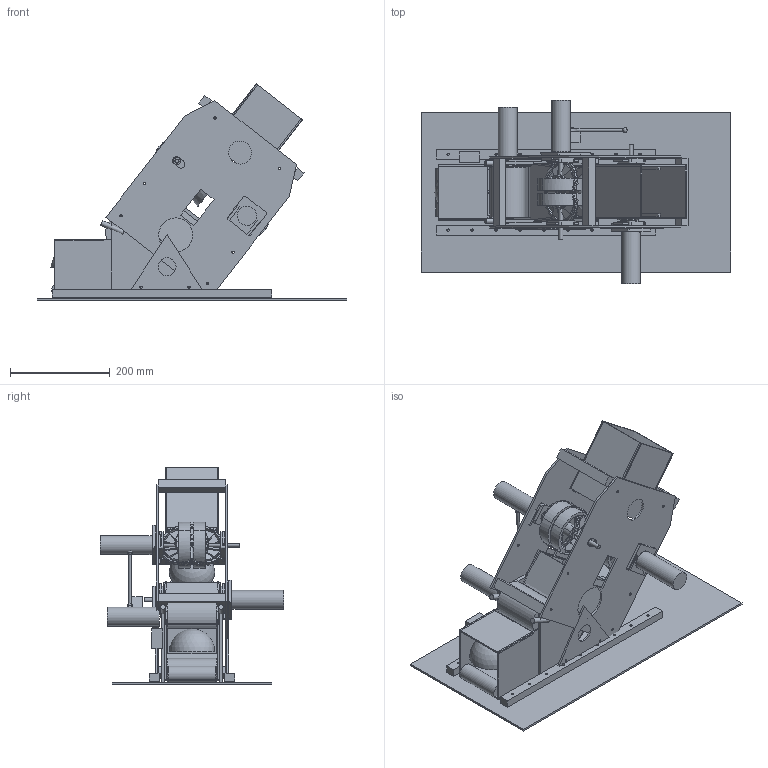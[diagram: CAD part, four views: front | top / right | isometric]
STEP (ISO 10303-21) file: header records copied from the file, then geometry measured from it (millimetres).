
FILE_DESCRIPTION(('Open CASCADE Model'),'2;1');
FILE_NAME('Open CASCADE Shape Model','2026-09-20T23:21:16',('Author'),( 'Open CASCADE'),'Open CASCADE STEP processor 7.8','Open CASCADE 7.8' ,'Unknown');
FILE_SCHEMA(('AUTOMOTIVE_DESIGN { 1 0 10303 214 1 1 1 1 }'));
Length unit declared in the file: millimetre
Products named in the file (81): biobuzz_launcher_nectar; 00_chassis_xy_reference; base_rail_-1; angle_gusset_-1; base_rail_+1; angle_gusset_+1; horizontal_feed_floor; horizontal_feed_roof; horizontal_feed_side_-1; horizontal_feed_side_+1; horizontal_belt_envelope; horizontal_belt_pulley_-95; horizontal_belt_pulley_48; transition_guide_-1; transition_guide_+1; transition_side_-1; transition_side_+1; kick_roller_envelope; upper_guide_roller_envelope; kick_support_cheek_-1; spring_guide_arm_-1; kick_support_cheek_+1; spring_guide_arm_+1; feed_motor_envelope; feed_gate_servo_envelope; feed_gate_flap_envelope; horizontal_path_ball_1; horizontal_path_ball_2; horizontal_path_ball_3; main_side_plate_-1; main_side_plate_+1; crossmember_-162_-118; crossmember_-162_118; crossmember_128_-118; crossmember_128_118; slide_rail_-1_-1; carriage_-1_-1; slide_rail_-1_+1; carriage_-1_+1; slide_rail_+1_-1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
Assembly tree (80 placements, depth 2):
  biobuzz_launcher_nectar
    00_chassis_xy_reference
    base_rail_-1
    angle_gusset_-1
    base_rail_+1
    angle_gusset_+1
    horizontal_feed_floor
    horizontal_feed_roof
    horizontal_feed_side_-1
    horizontal_feed_side_+1
    horizontal_belt_envelope
    horizontal_belt_pulley_-95
    horizontal_belt_pulley_48
    transition_guide_-1
    transition_guide_+1
    transition_side_-1
    transition_side_+1
    kick_roller_envelope
    upper_guide_roller_envelope
    kick_support_cheek_-1
    spring_guide_arm_-1
    kick_support_cheek_+1
    spring_guide_arm_+1
    feed_motor_envelope
    feed_gate_servo_envelope
    feed_gate_flap_envelope
    horizontal_path_ball_1
    horizontal_path_ball_2
    horizontal_path_ball_3
    main_side_plate_-1
    main_side_plate_+1
    crossmember_-162_-118
    crossmember_-162_118
    crossmember_128_-118
    crossmember_128_118
    slide_rail_-1_-1
    carriage_-1_-1
    slide_rail_-1_+1
    carriage_-1_+1
    slide_rail_+1_-1
    carriage_+1_-1
    slide_rail_+1_+1
    carriage_+1_+1
    shaft_upper
    gecko_upper_1
    gecko_upper_2
    bearing_collar_upper_-1
    bearing_collar_upper_+1
    motor_mount_upper
    motor_envelope_upper
    shaft_lower
    gecko_lower_1
    gecko_lower_2
    bearing_collar_lower_-1
    bearing_collar_lower_+1
    motor_mount_lower
    motor_envelope_lower
    servo_bracket
    servo_envelope
    servo_double_horn
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Bounding box: 620 x 368 x 433.69 mm (x, y, z)
Volume: 5347928.5 mm3; surface area: 1880906.5 mm2
Topology: 80 solids, 80 shells, 1661 faces, 4663 edges, 3106 vertices
Faces by surface type: plane 1494, cylinder 159, sphere 8
Full cylindrical faces by diameter (mm): 4.4 x12, 4.6 x34, 6 x3, 8 x2, 10 x2, 14.2 x14, 22 x4, 32 x2, 36 x2, 38 x3, 38.4 x2, 44 x1, 46 x2, 48 x1, 68 x2, 72 x1
Entity records: 116936 total; most frequent: CARTESIAN_POINT 20717, DIRECTION 17731, LINE 12445, VECTOR 12445, ORIENTED_EDGE 9310, PCURVE 9310, DEFINITIONAL_REPRESENTATION 9310, EDGE_CURVE 4655
